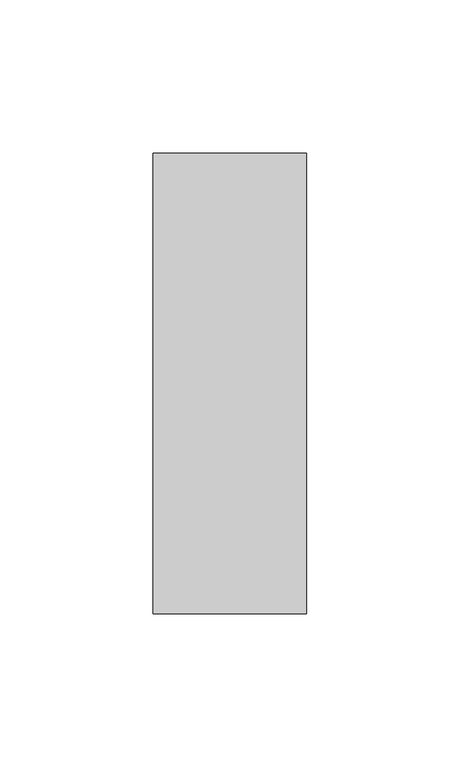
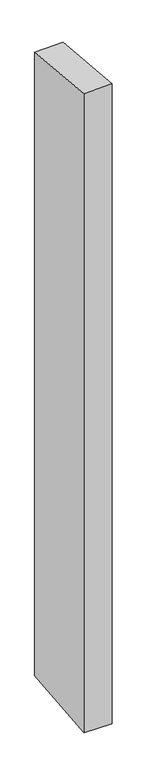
"""IFC4 building model written with IfcOpenShell, lengths in millimetres: member geometry, Прямоугольный импост : 50 x 150 мм."""

import ifcopenshell
import ifcopenshell.guid

model = None  # the IFC model being written
_history = None  # IfcOwnerHistory: only IFC2X3 demands one
_inside = {}  # id of a spatial element -> (the spatial element, [elements in it])
_under = {}  # id of a project, library or spatial element -> (it, [spatial elements below it])
_declared = {}  # id of a project -> (the project, [libraries it declares])
_typed = {}  # id of a type object -> (the type object, [elements of that type])
_made_of = {}  # id of a material, layer set ... -> (it, [elements and type objects made of it])


def new_model(schema):
    """Start an empty IFC model of exactly this schema.

    Asked for "IFC4X3", IfcOpenShell would pick the latest addendum, in which some entities
    have other attributes; the version numbers below select the first issue.
    IFC2X3 requires an IfcOwnerHistory on every rooted entity: one is made here for all.
    """
    global model, _history
    if schema == "IFC4X3":
        model = ifcopenshell.file(schema_version=(4, 3, 0, 0))
    else:
        model = ifcopenshell.file(schema=schema)
    _inside.clear()
    _under.clear()
    _declared.clear()
    _typed.clear()
    _made_of.clear()
    _history = None
    if model.schema == "IFC2X3":
        org = make("IfcOrganization", Name="unknown")
        user = make(
            "IfcPersonAndOrganization",
            ThePerson=make("IfcPerson", FamilyName="unknown"),
            TheOrganization=org,
        )
        app = make(
            "IfcApplication",
            ApplicationDeveloper=org,
            Version="unknown",
            ApplicationFullName="unknown",
            ApplicationIdentifier="unknown",
        )
        _history = make(
            "IfcOwnerHistory",
            OwningUser=user,
            OwningApplication=app,
            ChangeAction="ADDED",
            CreationDate=0,
        )
    return model


def make(cls, **values):
    """One entity of the class cls with the attributes given. An attribute that is None is left unset."""
    return model.create_entity(
        cls, **{name: value for name, value in values.items() if value is not None}
    )


def rooted(cls, **values):
    """An entity with a GlobalId (a new one), such as an element, a storey or a relation."""
    return make(cls, GlobalId=ifcopenshell.guid.new(), OwnerHistory=_history, **values)


def si_unit(unit_type, name, prefix=None):
    """IfcSIUnit, for example si_unit("LENGTHUNIT", "METRE", prefix="MILLI")."""
    return make("IfcSIUnit", UnitType=unit_type, Prefix=prefix, Name=name)


def assignment(units):
    """IfcUnitAssignment: the units of a project."""
    return None if units is None else make("IfcUnitAssignment", Units=units)


def point(xyz):
    """IfcCartesianPoint."""
    return None if xyz is None else make("IfcCartesianPoint", Coordinates=xyz)


def direction(xyz):
    """IfcDirection."""
    return None if xyz is None else make("IfcDirection", DirectionRatios=xyz)


def frame(location, z_axis=None, x_axis=None):
    """IfcAxis2Placement3D, a coordinate frame: its origin and axes. An axis left out is left unset."""
    return make(
        "IfcAxis2Placement3D",
        Location=point(location),
        Axis=direction(z_axis),
        RefDirection=direction(x_axis),
    )


def origin():
    """The frame at (0, 0, 0) with its axes left unset."""
    return frame((0.0, 0.0, 0.0))


def place(relative_to, where):
    """IfcLocalPlacement: puts the frame where relative to a parent placement (None: the world)."""
    return make(
        "IfcLocalPlacement", PlacementRelTo=relative_to, RelativePlacement=where
    )


def context(
    kind, dimensions, precision=None, world=None, true_north=None, identifier=None
):
    """IfcGeometricRepresentationContext, for example the 3D "Model" context."""
    return make(
        "IfcGeometricRepresentationContext",
        ContextIdentifier=identifier,
        ContextType=kind,
        CoordinateSpaceDimension=dimensions,
        Precision=precision,
        WorldCoordinateSystem=world,
        TrueNorth=true_north,
    )


def project(units=None, contexts=None):
    """IfcProject with its units and contexts."""
    return rooted(
        "IfcProject",
        Name="project",
        RepresentationContexts=contexts,
        UnitsInContext=assignment(units),
    )


def spatial(cls, under=None, at=None, **own):
    """A site, building, storey or space (cls), placed at a placement, below another one or the project."""
    s = rooted(cls, ObjectPlacement=at, **own)
    if under is not None:
        _under.setdefault(under.id(), (under, []))[1].append(s)
    return s


def faces_of(points, faces, orient=None, outer=None):
    """IfcFace entities. A face is a list of loops; a loop is a list of indices into points, from 0.

    orient and outer hold one flag for each loop. By default every Orientation is true, the
    first loop of a face is its IfcFaceOuterBound and the others are IfcFaceBound.
    """
    made = []
    for i, loops in enumerate(faces):
        bounds = []
        for j, loop in enumerate(loops):
            is_outer = j == 0 if outer is None else outer[i][j]
            bounds.append(
                make(
                    "IfcFaceOuterBound" if is_outer else "IfcFaceBound",
                    Bound=make("IfcPolyLoop", Polygon=[points[k] for k in loop]),
                    Orientation=True if orient is None else orient[i][j],
                )
            )
        made.append(make("IfcFace", Bounds=bounds))
    return made


def faceted_brep(points, faces, orient=None, outer=None, voids=None):
    """IfcFacetedBrep: a solid bounded by flat faces; with voids (closed shells), ...WithVoids."""
    shared = [point(p) for p in points]
    hull = make("IfcClosedShell", CfsFaces=faces_of(shared, faces, orient, outer))
    if voids is None:
        return make("IfcFacetedBrep", Outer=hull)
    return make(
        "IfcFacetedBrepWithVoids",
        Outer=hull,
        Voids=[
            make(cls, CfsFaces=faces_of(shared, fs, o, b)) for cls, fs, o, b in voids
        ],
    )


def shape(context_of_items, identifier, shape_type, items):
    """IfcShapeRepresentation: the items that make up one representation, for example the "Body"."""
    return make(
        "IfcShapeRepresentation",
        ContextOfItems=context_of_items,
        RepresentationIdentifier=identifier,
        RepresentationType=shape_type,
        Items=items,
    )


def source(mapping_origin, context_of_items, identifier, shape_type, items):
    """IfcRepresentationMap: a shape defined once, which mapped items show again and again."""
    return make(
        "IfcRepresentationMap",
        MappingOrigin=mapping_origin,
        MappedRepresentation=shape(context_of_items, identifier, shape_type, items),
    )


def transform(
    local_origin,
    x_axis=None,
    y_axis=None,
    z_axis=None,
    scale=None,
    scale2=None,
    scale3=None,
    uniform=True,
):
    """IfcCartesianTransformationOperator3D, or its non-uniform kind. x_axis, y_axis, z_axis: its Axis1, 2, 3."""
    if uniform:
        return make(
            "IfcCartesianTransformationOperator3D",
            Axis1=direction(x_axis),
            Axis2=direction(y_axis),
            LocalOrigin=point(local_origin),
            Scale=scale,
            Axis3=direction(z_axis),
        )
    return make(
        "IfcCartesianTransformationOperator3DnonUniform",
        Axis1=direction(x_axis),
        Axis2=direction(y_axis),
        LocalOrigin=point(local_origin),
        Scale=scale,
        Axis3=direction(z_axis),
        Scale2=scale2,
        Scale3=scale3,
    )


def mapped(mapping_source, mapping_target):
    """IfcMappedItem: shows the shape of a source again, moved by a transform."""
    return make(
        "IfcMappedItem", MappingSource=mapping_source, MappingTarget=mapping_target
    )


def made_of(thing, what):
    """Note that an element or type object is made of a material, layer set ...; save() writes the relation."""
    if what is not None:
        _made_of.setdefault(what.id(), (what, []))[1].append(thing)
    return thing


def element(
    cls,
    number,
    at=None,
    inside=None,
    cuts=None,
    type_object=None,
    material=None,
    context=None,
    identifier="Body",
    shape_type=None,
    held_by="IfcProductDefinitionShape",
    body=None,
    shapes=None,
    **own,
):
    """One element of the class cls, such as IfcWall. Its Tag is "e" and its number.

    at: its placement. inside: the storey or other place that contains it. cuts: it is an
    opening in that element (IfcRelVoidsElement). A single representation is given by context,
    identifier, shape_type and body (its items); several are given by shapes. held_by: the class
    of the entity that holds the representations. save() writes the other relations.
    """
    e = rooted(cls, Tag="e%d" % number, ObjectPlacement=at, **own)
    if body is not None:
        shapes = [shape(context, identifier, shape_type, body)]
    if shapes is not None:
        e.Representation = make(held_by, Representations=shapes)
    if inside is not None:
        _inside.setdefault(inside.id(), (inside, []))[1].append(e)
    if cuts is not None:
        rooted(
            "IfcRelVoidsElement", RelatingBuildingElement=cuts, RelatedOpeningElement=e
        )
    if type_object is not None:
        _typed.setdefault(type_object.id(), (type_object, []))[1].append(e)
    return made_of(e, material)


def aggregate(whole, parts):
    """IfcRelAggregates: a whole, such as a stair, and the parts it consists of."""
    return rooted("IfcRelAggregates", RelatingObject=whole, RelatedObjects=parts)


def save(model, path):
    """Write the relations noted so far, then the file.

    IfcRelAggregates (storeys below a building ...), IfcRelContainedInSpatialStructure (elements
    in a storey), IfcRelDefinesByType, IfcRelAssociatesMaterial and IfcRelDeclares: one each for
    every whole, place, type object, material and project.
    """
    for whole, parts in _under.values():
        aggregate(whole, parts)
    for where, things in _inside.values():
        rooted(
            "IfcRelContainedInSpatialStructure",
            RelatedElements=things,
            RelatingStructure=where,
        )
    for kind, things in _typed.values():
        rooted("IfcRelDefinesByType", RelatedObjects=things, RelatingType=kind)
    for what, things in _made_of.values():
        rooted("IfcRelAssociatesMaterial", RelatedObjects=things, RelatingMaterial=what)
    for by, libraries in _declared.values():
        rooted("IfcRelDeclares", RelatingContext=by, RelatedDefinitions=libraries)
    model.write(path)


def member_86abc673(model_context):
    return source(origin(), model_context, "Body", "Brep", [
        faceted_brep([(-25.0, 75.0, -7.3392723), (25.0, 75.0, -6.6517336), (25.0, 75.0, -1168.7997595), (-25.0, 75.0, -1168.3015211), (-25.0, -75.0, 6.6517336), (-25.0, -75.0, -1183.7873873), (25.0, -75.0, 7.3392723), (25.0, -75.0, -1184.2856258)], [[[0, 1, 2, 3]], [[4, 0, 3, 5]], [[6, 4, 5, 7]], [[1, 6, 7, 2]], [[1, 0, 4, 6]], [[2, 7, 5, 3]]]),
    ])


if __name__ == "__main__":
    model = new_model("IFC4")
    model_context = context("Model", 3, world=origin())
    ifc_project = project(units=[si_unit("LENGTHUNIT", "METRE", prefix="MILLI")], contexts=[model_context])
    site = spatial("IfcSite", under=ifc_project)
    building = spatial("IfcBuilding", under=site)
    placement = place(None, origin())
    member_shape = member_86abc673(model_context)
    element("IfcMember", 1, ObjectType="Прямоугольный импост : 50 x 150 мм", at=placement, inside=building, context=model_context, shape_type="MappedRepresentation", body=[
        mapped(member_shape, transform((0.0, 0.0, 0.0), x_axis=(1.0, 0.0, 0.0), y_axis=(0.0, 1.0, 0.0), z_axis=(0.0, 0.0, 1.0))),
    ])
    save(model, "model.ifc")
